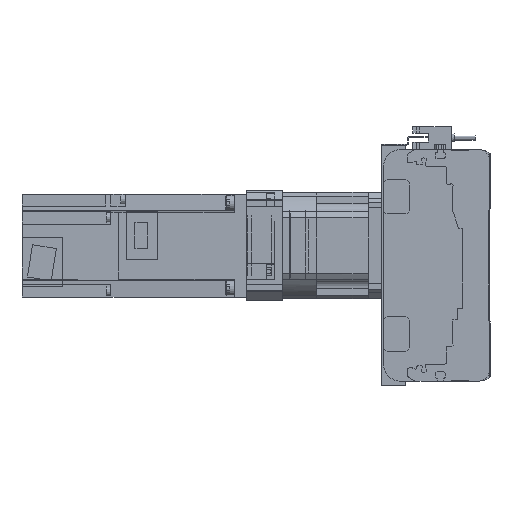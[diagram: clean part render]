
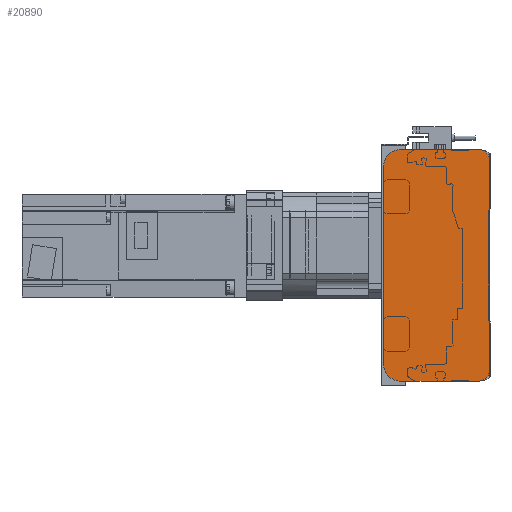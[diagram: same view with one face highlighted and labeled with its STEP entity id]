
A CAD part, left-side view. The second image highlights one B-rep face of the part: STEP entity #20890.
In plain terms, the highlighted planar face has unit normal (-1, 0, 0).
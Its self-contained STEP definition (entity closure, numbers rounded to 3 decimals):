
#1356=CIRCLE('',#22883,5.);
#1357=CIRCLE('',#22886,5.);
#1358=CIRCLE('',#22889,10.);
#1359=CIRCLE('',#22892,10.);
#6127=ORIENTED_EDGE('',*,*,#9483,.F.);
#6128=ORIENTED_EDGE('',*,*,#9640,.F.);
#6129=ORIENTED_EDGE('',*,*,#9632,.F.);
#6130=ORIENTED_EDGE('',*,*,#9630,.F.);
#6131=ORIENTED_EDGE('',*,*,#9259,.F.);
#6132=ORIENTED_EDGE('',*,*,#9629,.F.);
#6133=ORIENTED_EDGE('',*,*,#9627,.F.);
#6134=ORIENTED_EDGE('',*,*,#9625,.F.);
#6135=ORIENTED_EDGE('',*,*,#9623,.F.);
#6136=ORIENTED_EDGE('',*,*,#9621,.F.);
#9259=EDGE_CURVE('',#11518,#11519,#13352,.T.);
#9483=EDGE_CURVE('',#11619,#11620,#13495,.T.);
#9621=EDGE_CURVE('',#11620,#11703,#13624,.T.);
#9623=EDGE_CURVE('',#11703,#11704,#1356,.T.);
#9625=EDGE_CURVE('',#11704,#11705,#13627,.T.);
#9627=EDGE_CURVE('',#11705,#11706,#1357,.T.);
#9629=EDGE_CURVE('',#11706,#11518,#13630,.T.);
#9630=EDGE_CURVE('',#11519,#11707,#1358,.T.);
#9632=EDGE_CURVE('',#11707,#11708,#13632,.T.);
#9640=EDGE_CURVE('',#11708,#11619,#1359,.T.);
#11518=VERTEX_POINT('',#34464);
#11519=VERTEX_POINT('',#34466);
#11619=VERTEX_POINT('',#34865);
#11620=VERTEX_POINT('',#34867);
#11703=VERTEX_POINT('',#35144);
#11704=VERTEX_POINT('',#35148);
#11705=VERTEX_POINT('',#35152);
#11706=VERTEX_POINT('',#35156);
#11707=VERTEX_POINT('',#35162);
#11708=VERTEX_POINT('',#35166);
#13352=LINE('',#34465,#15145);
#13495=LINE('',#34866,#15288);
#13624=LINE('',#35143,#15417);
#13627=LINE('',#35151,#15420);
#13630=LINE('',#35159,#15423);
#13632=LINE('',#35165,#15425);
#15145=VECTOR('',#27648,1000.);
#15288=VECTOR('',#28105,1000.);
#15417=VECTOR('',#28364,1000.);
#15420=VECTOR('',#28373,1000.);
#15423=VECTOR('',#28382,1000.);
#15425=VECTOR('',#28390,1000.);
#16873=EDGE_LOOP('',(#6127,#6128,#6129,#6130,#6131,#6132,#6133,#6134,#6135,
#6136));
#18732=FACE_BOUND('',#16873,.T.);
#19815=PLANE('',#22893);
#20890=ADVANCED_FACE('',(#18732),#19815,.F.);
#22883=AXIS2_PLACEMENT_3D('',#35147,#28368,#28369);
#22886=AXIS2_PLACEMENT_3D('',#35155,#28377,#28378);
#22889=AXIS2_PLACEMENT_3D('',#35161,#28385,#28386);
#22892=AXIS2_PLACEMENT_3D('',#35179,#28400,#28401);
#22893=AXIS2_PLACEMENT_3D('',#35180,#28402,#28403);
#27648=DIRECTION('',(0.,1.,0.));
#28105=DIRECTION('',(0.,-1.,0.));
#28364=DIRECTION('',(0.,-0.942,-0.336));
#28368=DIRECTION('',(1.,0.,0.));
#28369=DIRECTION('',(0.,0.,-1.));
#28373=DIRECTION('',(0.,0.,-1.));
#28377=DIRECTION('',(1.,0.,0.));
#28378=DIRECTION('',(0.,0.,-1.));
#28382=DIRECTION('',(0.,0.942,-0.336));
#28385=DIRECTION('',(1.,0.,0.));
#28386=DIRECTION('',(0.,0.,-1.));
#28390=DIRECTION('',(0.,0.,1.));
#28400=DIRECTION('',(1.,0.,0.));
#28401=DIRECTION('',(0.,0.,-1.));
#28402=DIRECTION('',(1.,0.,0.));
#28403=DIRECTION('',(0.,0.,-1.));
#34464=CARTESIAN_POINT('',(-10.,6.,-67.5));
#34465=CARTESIAN_POINT('',(-10.,6.,-67.5));
#34466=CARTESIAN_POINT('',(-10.,52.,-67.5));
#34865=CARTESIAN_POINT('',(-10.,52.,67.5));
#34866=CARTESIAN_POINT('',(-10.,52.,67.5));
#34867=CARTESIAN_POINT('',(-10.,6.,67.5));
#35143=CARTESIAN_POINT('',(-10.,6.,67.5));
#35144=CARTESIAN_POINT('',(-10.,3.822,66.724));
#35147=CARTESIAN_POINT('',(-10.,5.5,62.014));
#35148=CARTESIAN_POINT('',(-10.,0.5,62.014));
#35151=CARTESIAN_POINT('',(-10.,0.5,62.014));
#35152=CARTESIAN_POINT('',(-10.,0.5,-62.014));
#35155=CARTESIAN_POINT('',(-10.,5.5,-62.014));
#35156=CARTESIAN_POINT('',(-10.,3.822,-66.724));
#35159=CARTESIAN_POINT('',(-10.,3.822,-66.724));
#35161=CARTESIAN_POINT('',(-10.,52.,-57.5));
#35162=CARTESIAN_POINT('',(-10.,62.,-57.5));
#35165=CARTESIAN_POINT('',(-10.,62.,-57.5));
#35166=CARTESIAN_POINT('',(-10.,62.,57.5));
#35179=CARTESIAN_POINT('',(-10.,52.,57.5));
#35180=CARTESIAN_POINT('',(-10.,5.5,62.014));
